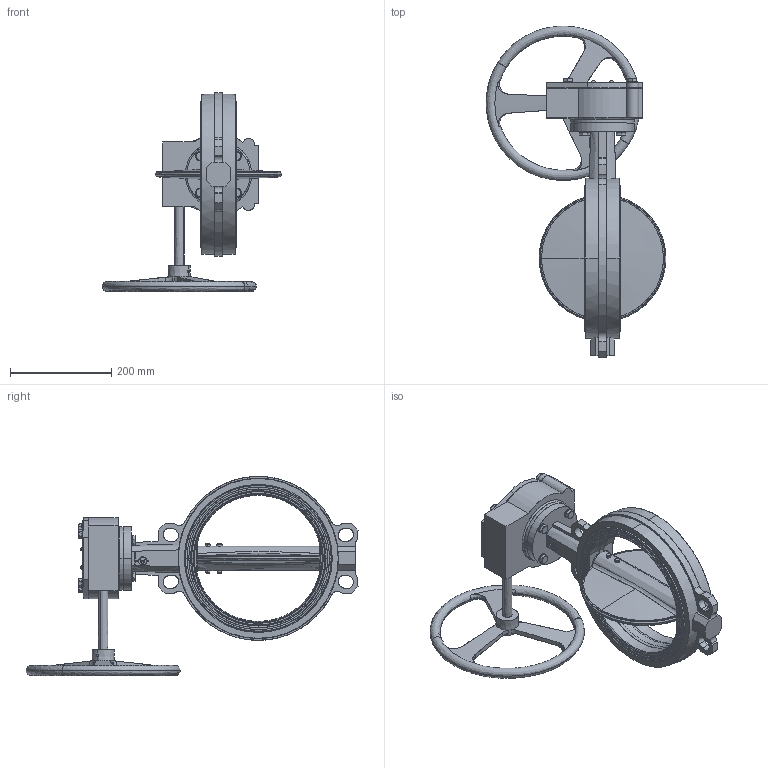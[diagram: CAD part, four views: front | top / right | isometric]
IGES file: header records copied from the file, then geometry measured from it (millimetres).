
Start section: SolidWorks IGES file using analytic representation for surfaces
Global section: file name: H:\BE FABRICATION\BE SERIE\VP\VP SERIE\F072 VPG\plan 3D\VPG-08\WAFER\DN250\VPG444X-08XX0250.igs; native system: SolidWorks 2020; preprocessor: SolidWorks 2020; author: k.gigout; date: 220630.102314; units: millimetre
Bounding box: 355.2 x 656.03 x 393.52 mm (x, y, z)
Surface area: 651440.4 mm2 (no closed solid volume)
Topology: 0 solids, 0 shells, 746 faces, 23515 edges, 23513 vertices
Faces by surface type: bspline 529, revolution 217
